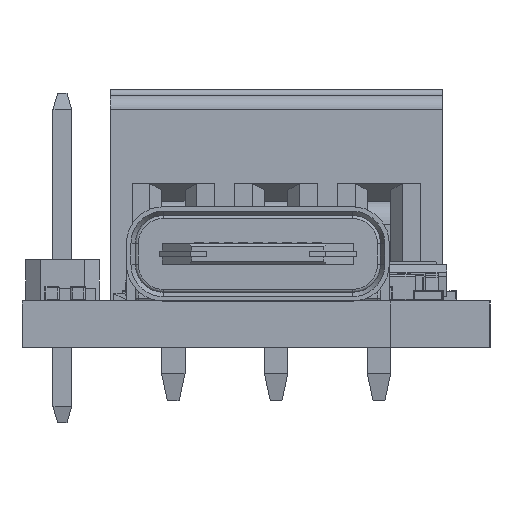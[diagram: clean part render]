
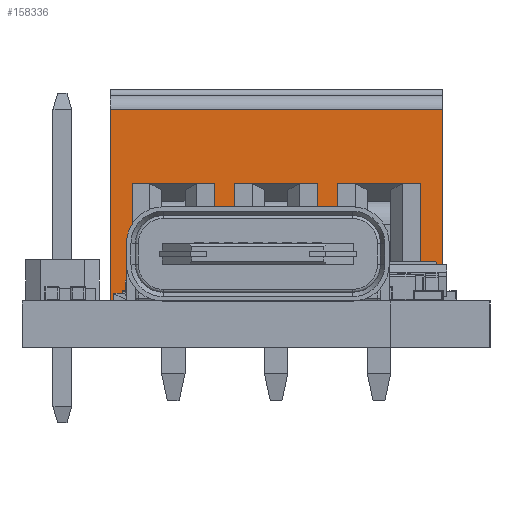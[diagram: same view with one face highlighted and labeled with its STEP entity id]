
A CAD part, left-side view. The second image highlights one B-rep face of the part: STEP entity #158336.
In plain terms, the highlighted planar face has unit normal (-1, 0, 0).
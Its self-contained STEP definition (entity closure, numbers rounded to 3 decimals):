
#154001 = VERTEX_POINT('',#154002);
#154002 = CARTESIAN_POINT('',(76.092,81.436,6.5));
#154009 = EDGE_CURVE('',#154001,#154010,#154012,.T.);
#154010 = VERTEX_POINT('',#154011);
#154011 = CARTESIAN_POINT('',(76.092,81.436,0.));
#154012 = LINE('',#154013,#154014);
#154013 = CARTESIAN_POINT('',(76.092,81.436,7.));
#154014 = VECTOR('',#154015,1.);
#154015 = DIRECTION('',(0.,0.,-1.));
#157626 = EDGE_CURVE('',#157627,#157629,#157631,.T.);
#157627 = VERTEX_POINT('',#157628);
#157628 = CARTESIAN_POINT('',(76.092,91.986,4.));
#157629 = VERTEX_POINT('',#157630);
#157630 = CARTESIAN_POINT('',(76.092,89.186,4.));
#157631 = LINE('',#157632,#157633);
#157632 = CARTESIAN_POINT('',(76.092,91.986,4.));
#157633 = VECTOR('',#157634,1.);
#157634 = DIRECTION('',(0.,-1.,0.));
#157661 = EDGE_CURVE('',#157662,#157627,#157664,.T.);
#157662 = VERTEX_POINT('',#157663);
#157663 = CARTESIAN_POINT('',(76.092,91.986,
    0.));
#157664 = LINE('',#157665,#157666);
#157665 = CARTESIAN_POINT('',(76.092,91.986,
    0.));
#157666 = VECTOR('',#157667,1.);
#157667 = DIRECTION('',(0.,0.,1.));
#157689 = VERTEX_POINT('',#157690);
#157690 = CARTESIAN_POINT('',(76.092,89.186,0.));
#157696 = EDGE_CURVE('',#157689,#157629,#157697,.T.);
#157697 = LINE('',#157698,#157699);
#157698 = CARTESIAN_POINT('',(76.092,89.186,
    0.));
#157699 = VECTOR('',#157700,1.);
#157700 = DIRECTION('',(0.,0.,1.));
#158181 = VERTEX_POINT('',#158182);
#158182 = CARTESIAN_POINT('',(76.092,88.486,
    0.));
#158188 = EDGE_CURVE('',#158181,#157689,#158189,.T.);
#158189 = LINE('',#158190,#158191);
#158190 = CARTESIAN_POINT('',(76.092,92.736,0.));
#158191 = VECTOR('',#158192,1.);
#158192 = DIRECTION('',(0.,1.,0.));
#158197 = EDGE_CURVE('',#157662,#158198,#158200,.T.);
#158198 = VERTEX_POINT('',#158199);
#158199 = CARTESIAN_POINT('',(76.092,92.736,0.));
#158200 = LINE('',#158201,#158202);
#158201 = CARTESIAN_POINT('',(76.092,92.736,0.));
#158202 = VECTOR('',#158203,1.);
#158203 = DIRECTION('',(0.,1.,0.));
#158213 = EDGE_CURVE('',#154010,#158214,#158216,.T.);
#158214 = VERTEX_POINT('',#158215);
#158215 = CARTESIAN_POINT('',(76.092,82.186,0.));
#158216 = LINE('',#158217,#158218);
#158217 = CARTESIAN_POINT('',(76.092,92.736,0.));
#158218 = VECTOR('',#158219,1.);
#158219 = DIRECTION('',(0.,1.,0.));
#158238 = VERTEX_POINT('',#158239);
#158239 = CARTESIAN_POINT('',(76.092,84.986,
    0.));
#158245 = EDGE_CURVE('',#158238,#158246,#158248,.T.);
#158246 = VERTEX_POINT('',#158247);
#158247 = CARTESIAN_POINT('',(76.092,85.686,0.));
#158248 = LINE('',#158249,#158250);
#158249 = CARTESIAN_POINT('',(76.092,92.736,0.));
#158250 = VECTOR('',#158251,1.);
#158251 = DIRECTION('',(0.,1.,0.));
#158267 = EDGE_CURVE('',#158198,#158268,#158270,.T.);
#158268 = VERTEX_POINT('',#158269);
#158269 = CARTESIAN_POINT('',(76.092,92.736,6.5));
#158270 = LINE('',#158271,#158272);
#158271 = CARTESIAN_POINT('',(76.092,92.736,7.));
#158272 = VECTOR('',#158273,1.);
#158273 = DIRECTION('',(0.,0.,1.));
#158336 = ADVANCED_FACE('',(#158337),#158398,.T.);
#158337 = FACE_BOUND('',#158338,.T.);
#158338 = EDGE_LOOP('',(#158339,#158347,#158355,#158361,#158362,#158370,
    #158378,#158384,#158385,#158386,#158392,#158393,#158394,#158395,
    #158396,#158397));
#158339 = ORIENTED_EDGE('',*,*,#158340,.T.);
#158340 = EDGE_CURVE('',#158181,#158341,#158343,.T.);
#158341 = VERTEX_POINT('',#158342);
#158342 = CARTESIAN_POINT('',(76.092,88.486,4.));
#158343 = LINE('',#158344,#158345);
#158344 = CARTESIAN_POINT('',(76.092,88.486,
    0.));
#158345 = VECTOR('',#158346,1.);
#158346 = DIRECTION('',(0.,0.,1.));
#158347 = ORIENTED_EDGE('',*,*,#158348,.T.);
#158348 = EDGE_CURVE('',#158341,#158349,#158351,.T.);
#158349 = VERTEX_POINT('',#158350);
#158350 = CARTESIAN_POINT('',(76.092,85.686,4.));
#158351 = LINE('',#158352,#158353);
#158352 = CARTESIAN_POINT('',(76.092,88.486,4.));
#158353 = VECTOR('',#158354,1.);
#158354 = DIRECTION('',(0.,-1.,0.));
#158355 = ORIENTED_EDGE('',*,*,#158356,.F.);
#158356 = EDGE_CURVE('',#158246,#158349,#158357,.T.);
#158357 = LINE('',#158358,#158359);
#158358 = CARTESIAN_POINT('',(76.092,85.686,
    0.));
#158359 = VECTOR('',#158360,1.);
#158360 = DIRECTION('',(0.,0.,1.));
#158361 = ORIENTED_EDGE('',*,*,#158245,.F.);
#158362 = ORIENTED_EDGE('',*,*,#158363,.T.);
#158363 = EDGE_CURVE('',#158238,#158364,#158366,.T.);
#158364 = VERTEX_POINT('',#158365);
#158365 = CARTESIAN_POINT('',(76.092,84.986,4.));
#158366 = LINE('',#158367,#158368);
#158367 = CARTESIAN_POINT('',(76.092,84.986,
    0.));
#158368 = VECTOR('',#158369,1.);
#158369 = DIRECTION('',(0.,0.,1.));
#158370 = ORIENTED_EDGE('',*,*,#158371,.T.);
#158371 = EDGE_CURVE('',#158364,#158372,#158374,.T.);
#158372 = VERTEX_POINT('',#158373);
#158373 = CARTESIAN_POINT('',(76.092,82.186,4.));
#158374 = LINE('',#158375,#158376);
#158375 = CARTESIAN_POINT('',(76.092,84.986,4.));
#158376 = VECTOR('',#158377,1.);
#158377 = DIRECTION('',(0.,-1.,0.));
#158378 = ORIENTED_EDGE('',*,*,#158379,.F.);
#158379 = EDGE_CURVE('',#158214,#158372,#158380,.T.);
#158380 = LINE('',#158381,#158382);
#158381 = CARTESIAN_POINT('',(76.092,82.186,
    0.));
#158382 = VECTOR('',#158383,1.);
#158383 = DIRECTION('',(0.,0.,1.));
#158384 = ORIENTED_EDGE('',*,*,#158213,.F.);
#158385 = ORIENTED_EDGE('',*,*,#154009,.F.);
#158386 = ORIENTED_EDGE('',*,*,#158387,.T.);
#158387 = EDGE_CURVE('',#154001,#158268,#158388,.T.);
#158388 = LINE('',#158389,#158390);
#158389 = CARTESIAN_POINT('',(76.092,92.736,6.5));
#158390 = VECTOR('',#158391,1.);
#158391 = DIRECTION('',(0.,1.,0.));
#158392 = ORIENTED_EDGE('',*,*,#158267,.F.);
#158393 = ORIENTED_EDGE('',*,*,#158197,.F.);
#158394 = ORIENTED_EDGE('',*,*,#157661,.T.);
#158395 = ORIENTED_EDGE('',*,*,#157626,.T.);
#158396 = ORIENTED_EDGE('',*,*,#157696,.F.);
#158397 = ORIENTED_EDGE('',*,*,#158188,.F.);
#158398 = PLANE('',#158399);
#158399 = AXIS2_PLACEMENT_3D('',#158400,#158401,#158402);
#158400 = CARTESIAN_POINT('',(76.092,92.736,0.));
#158401 = DIRECTION('',(-1.,0.,0.));
#158402 = DIRECTION('',(0.,-0.,-1.));
